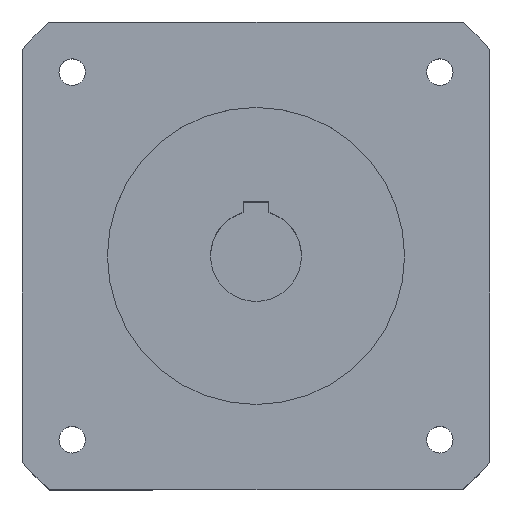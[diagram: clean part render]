
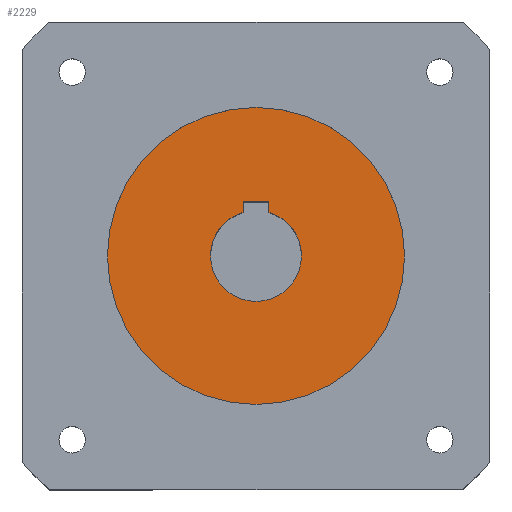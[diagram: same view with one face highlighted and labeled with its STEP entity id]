
A CAD part, top view. The second image highlights one B-rep face of the part: STEP entity #2229.
In plain terms, the highlighted planar face has unit normal (0, 0, 1).
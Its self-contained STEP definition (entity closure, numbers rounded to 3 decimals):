
#7 = DIRECTION ( 'NONE',  ( 0., 0., 1. ) ) ;
#34 = EDGE_CURVE ( 'NONE', #1362, #2355, #3098, .T. ) ;
#37 = DIRECTION ( 'NONE',  ( -1., 0., 0. ) ) ;
#42 = VERTEX_POINT ( 'NONE', #2798 ) ;
#91 = LINE ( 'NONE', #1624, #1347 ) ;
#185 = EDGE_CURVE ( 'NONE', #3911, #644, #91, .T. ) ;
#424 = AXIS2_PLACEMENT_3D ( 'NONE', #3182, #1831, #2531 ) ;
#517 = DIRECTION ( 'NONE',  ( 1., 0., 0. ) ) ;
#644 = VERTEX_POINT ( 'NONE', #2483 ) ;
#698 = ORIENTED_EDGE ( 'NONE', *, *, #1686, .F. ) ;
#778 = DIRECTION ( 'NONE',  ( 1., 0., 0. ) ) ;
#816 = CARTESIAN_POINT ( 'NONE',  ( 0., 0., 91. ) ) ;
#886 = VERTEX_POINT ( 'NONE', #1350 ) ;
#956 = CIRCLE ( 'NONE', #1492, 17.5 ) ;
#977 = DIRECTION ( 'NONE',  ( 1., 0., 0. ) ) ;
#1036 = AXIS2_PLACEMENT_3D ( 'NONE', #3682, #7, #1200 ) ;
#1073 = ORIENTED_EDGE ( 'NONE', *, *, #3577, .F. ) ;
#1094 = DIRECTION ( 'NONE',  ( 0., 1., 0. ) ) ;
#1199 = VECTOR ( 'NONE', #1094, 1000. ) ;
#1200 = DIRECTION ( 'NONE',  ( 1., 0., 0. ) ) ;
#1239 = CIRCLE ( 'NONE', #3783, 57.15 ) ;
#1247 = AXIS2_PLACEMENT_3D ( 'NONE', #2759, #3049, #1854 ) ;
#1292 = CARTESIAN_POINT ( 'NONE',  ( 0., 0., 91. ) ) ;
#1315 = CARTESIAN_POINT ( 'NONE',  ( -5., 16.771, 91. ) ) ;
#1343 = CARTESIAN_POINT ( 'NONE',  ( 5., 16.771, 91. ) ) ;
#1347 = VECTOR ( 'NONE', #37, 1000. ) ;
#1350 = CARTESIAN_POINT ( 'NONE',  ( 57.15, 0., 91. ) ) ;
#1362 = VERTEX_POINT ( 'NONE', #1892 ) ;
#1492 = AXIS2_PLACEMENT_3D ( 'NONE', #1704, #2972, #778 ) ;
#1553 = VERTEX_POINT ( 'NONE', #1315 ) ;
#1624 = CARTESIAN_POINT ( 'NONE',  ( 0., 20.8, 91. ) ) ;
#1686 = EDGE_CURVE ( 'NONE', #42, #1362, #956, .T. ) ;
#1704 = CARTESIAN_POINT ( 'NONE',  ( 0., 0., 91. ) ) ;
#1831 = DIRECTION ( 'NONE',  ( 0., 0., 1. ) ) ;
#1851 = ORIENTED_EDGE ( 'NONE', *, *, #3875, .T. ) ;
#1854 = DIRECTION ( 'NONE',  ( 1., 0., 0. ) ) ;
#1892 = CARTESIAN_POINT ( 'NONE',  ( 17.5, 0., 91. ) ) ;
#2047 = CARTESIAN_POINT ( 'NONE',  ( -5., 0., 91. ) ) ;
#2114 = FACE_OUTER_BOUND ( 'NONE', #3558, .T. ) ;
#2130 = CARTESIAN_POINT ( 'NONE',  ( -57.15, 0., 91. ) ) ;
#2229 = ADVANCED_FACE ( 'NONE', ( #3421, #2114 ), #2362, .T. ) ;
#2355 = VERTEX_POINT ( 'NONE', #1343 ) ;
#2362 = PLANE ( 'NONE',  #3675 ) ;
#2367 = DIRECTION ( 'NONE',  ( 0., -1., 0. ) ) ;
#2380 = DIRECTION ( 'NONE',  ( 0., 0., 1. ) ) ;
#2424 = VECTOR ( 'NONE', #2367, 1000. ) ;
#2483 = CARTESIAN_POINT ( 'NONE',  ( -5., 20.8, 91. ) ) ;
#2531 = DIRECTION ( 'NONE',  ( 1., 0., 0. ) ) ;
#2659 = ORIENTED_EDGE ( 'NONE', *, *, #3216, .F. ) ;
#2669 = CARTESIAN_POINT ( 'NONE',  ( 5., 0., 91. ) ) ;
#2759 = CARTESIAN_POINT ( 'NONE',  ( 0., 0., 91. ) ) ;
#2798 = CARTESIAN_POINT ( 'NONE',  ( -17.5, 0., 91. ) ) ;
#2972 = DIRECTION ( 'NONE',  ( 0., 0., 1. ) ) ;
#3049 = DIRECTION ( 'NONE',  ( 0., 0., 1. ) ) ;
#3098 = CIRCLE ( 'NONE', #1036, 17.5 ) ;
#3149 = CIRCLE ( 'NONE', #1247, 57.15 ) ;
#3161 = CARTESIAN_POINT ( 'NONE',  ( 5., 20.8, 91. ) ) ;
#3172 = ORIENTED_EDGE ( 'NONE', *, *, #34, .F. ) ;
#3182 = CARTESIAN_POINT ( 'NONE',  ( 0., 0., 91. ) ) ;
#3216 = EDGE_CURVE ( 'NONE', #2355, #3911, #3790, .T. ) ;
#3345 = LINE ( 'NONE', #2047, #2424 ) ;
#3368 = EDGE_CURVE ( 'NONE', #1553, #42, #3600, .T. ) ;
#3409 = ORIENTED_EDGE ( 'NONE', *, *, #3700, .T. ) ;
#3421 = FACE_BOUND ( 'NONE', #4021, .T. ) ;
#3466 = DIRECTION ( 'NONE',  ( 0., 0., 1. ) ) ;
#3558 = EDGE_LOOP ( 'NONE', ( #1851, #3409 ) ) ;
#3577 = EDGE_CURVE ( 'NONE', #644, #1553, #3345, .T. ) ;
#3600 = CIRCLE ( 'NONE', #424, 17.5 ) ;
#3637 = ORIENTED_EDGE ( 'NONE', *, *, #3368, .F. ) ;
#3651 = VERTEX_POINT ( 'NONE', #2130 ) ;
#3675 = AXIS2_PLACEMENT_3D ( 'NONE', #816, #2380, #517 ) ;
#3682 = CARTESIAN_POINT ( 'NONE',  ( 0., 0., 91. ) ) ;
#3700 = EDGE_CURVE ( 'NONE', #3651, #886, #3149, .T. ) ;
#3783 = AXIS2_PLACEMENT_3D ( 'NONE', #1292, #3466, #977 ) ;
#3790 = LINE ( 'NONE', #2669, #1199 ) ;
#3875 = EDGE_CURVE ( 'NONE', #886, #3651, #1239, .T. ) ;
#3906 = ORIENTED_EDGE ( 'NONE', *, *, #185, .F. ) ;
#3911 = VERTEX_POINT ( 'NONE', #3161 ) ;
#4021 = EDGE_LOOP ( 'NONE', ( #3637, #1073, #3906, #2659, #3172, #698 ) ) ;
